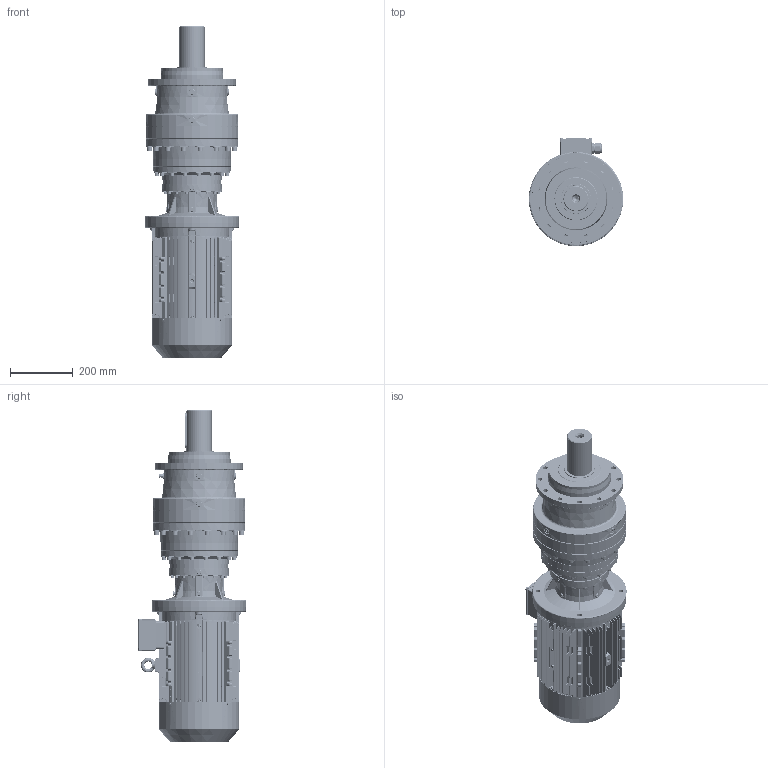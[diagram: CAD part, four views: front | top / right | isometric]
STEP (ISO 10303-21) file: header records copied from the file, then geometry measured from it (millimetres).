
FILE_DESCRIPTION (( 'STEP AP203' ), '1' );
FILE_NAME ('PVL_1903L-132M-4.STEP', '2019-05-10T10:58:42', ( '' ), ( '' ), 'SwSTEP 2.0', 'SolidWorks 2012', '' );
FILE_SCHEMA (( 'CONFIG_CONTROL_DESIGN' ));
Products named in the file (28): cross recessed pan head screws gb_GB_CROSS_SCREWS_TYPE1 M5X12-12  H type-N_1; hexagon flange head tapping screws gb_GB_SQUARE_AND_HEXAGON_TYPE137 ST4.2X9.5 C-N; PVL_1903L-132M-4; MX3-132M_B5; circlips for shaft--type a large gb_GB_CONNECTING_PIECE_RING_RRA 28; hexagon socket head cap screws gb_GB_FASTENER_SCREWS_HSHCS M8X40-N_1; hex nuts, style 1-grades ab gb_GB_FASTENER_NUT_SNAB1 M8-N; spring lock washers--normal type gb_GB_FASTENER_WASHER_SW 8_1; hexagon socket head cap screws gb_GB_FASTENER_SCREWS_HSHCS M8X45-N; eyebolts gb_GB_FASTENER_SCREWS_FRS M10-N_1; 132M B5ﾂ-ｩﾃ; plain parallel keys_GB_CONNECTING_PIECE_KEYS_CSK 10X70_1; 132〩仁佞怔; ﾋ-ﾀﾔ40X58X7; -戌呲25; 132ÀþiÍ; 132〩仁佞蹉峔; 132 瞬++-4; deep groove ball bearings gb_Rolling bearings 6308 GB 276-94_1; 132M B5+ｷ+ﾃ; 132M 俓; PNL_1903L_0_0_A13_B5_ML25A_FL5A_0_0_0_0_0_0_0_0_0_0_0_M1; 132B3ﾂ-ｩﾃ; EK1903L_Varsayìlan; FL5A_Varsayìlan; ML25A_Varsayìlan; 11132B5_Varsayìlan; P19_Varsayìlan
Assembly tree (55 placements, depth 3):
  PVL_1903L-132M-4
    PNL_1903L_0_0_A13_B5_ML25A_FL5A_0_0_0_0_0_0_0_0_0_0_0_M1
      P19_Varsayìlan
      11132B5_Varsayìlan
      ML25A_Varsayìlan
      EK1903L_Varsayìlan
      FL5A_Varsayìlan
    MX3-132M_B5
      132M B5+ｷ+ﾃ
      132B3ﾂ-ｩﾃ
      132M 俓
      deep groove ball bearings gb_Rolling bearings 6308 GB 276-94_1  x2
      132 瞬++-4
      132ÀþiÍ
      132〩仁佞蹉峔
      132〩仁佞怔
      -戌呲25  x2
      ﾋ-ﾀﾔ40X58X7
      plain parallel keys_GB_CONNECTING_PIECE_KEYS_CSK 10X70_1
      eyebolts gb_GB_FASTENER_SCREWS_FRS M10-N_1
      132M B5ﾂ-ｩﾃ
      hexagon socket head cap screws gb_GB_FASTENER_SCREWS_HSHCS M8X45-N  x4
      spring lock washers--normal type gb_GB_FASTENER_WASHER_SW 8_1  x8
      hex nuts, style 1-grades ab gb_GB_FASTENER_NUT_SNAB1 M8-N  x7
      hexagon socket head cap screws gb_GB_FASTENER_SCREWS_HSHCS M8X40-N_1  x5
      circlips for shaft--type a large gb_GB_CONNECTING_PIECE_RING_RRA 28
      hexagon flange head tapping screws gb_GB_SQUARE_AND_HEXAGON_TYPE137 ST4.2X9.5 C-N  x4
      cross recessed pan head screws gb_GB_CROSS_SCREWS_TYPE1 M5X12-12  H type-N_1  x4
Bounding box: 300 x 345 x 1055.72 mm (x, y, z)
Volume: 25801835.3 mm3; surface area: 3020429.4 mm2
Topology: 62 solids, 64 shells, 10115 faces, 26319 edges, 16200 vertices
Faces by surface type: plane 3664, cylinder 2754, bspline 2373, cone 808, torus 378, sphere 138
Entity records: 376304 total; most frequent: CARTESIAN_POINT 159851, ORIENTED_EDGE 48372, DIRECTION 39371, EDGE_CURVE 24186, VERTEX_POINT 15045, AXIS2_PLACEMENT_3D 14669, EDGE_LOOP 10317, LINE 10033
